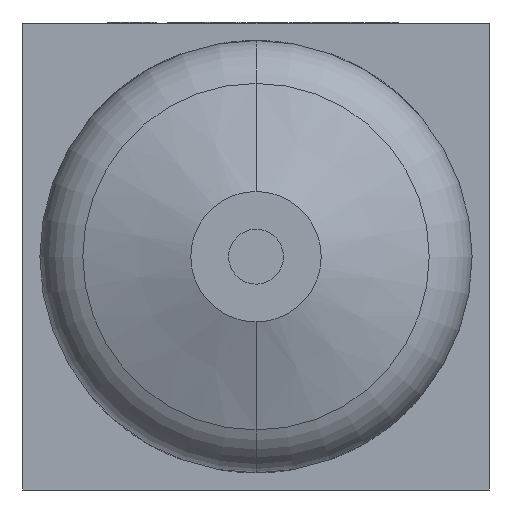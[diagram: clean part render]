
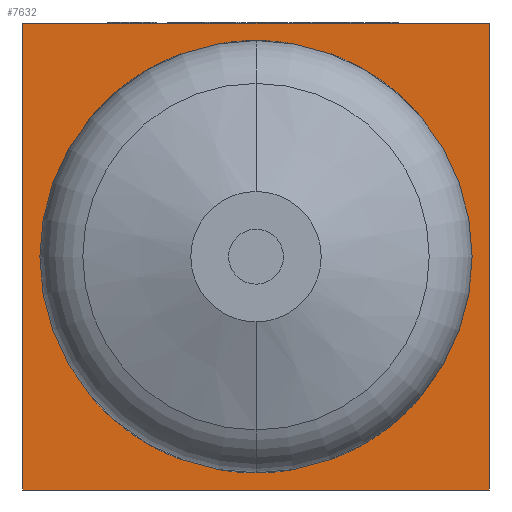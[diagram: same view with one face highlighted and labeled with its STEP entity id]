
A CAD part, front view. The second image highlights one B-rep face of the part: STEP entity #7632.
In plain terms, the highlighted planar face has unit normal (0, -1, 0).
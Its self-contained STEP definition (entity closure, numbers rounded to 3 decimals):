
#6 = LINE ( 'NONE', #10682, #6046 ) ;
#76 = ORIENTED_EDGE ( 'NONE', *, *, #7770, .F. ) ;
#249 = DIRECTION ( 'NONE',  ( 0., 0., -1. ) ) ;
#1073 = VERTEX_POINT ( 'NONE', #14282 ) ;
#2428 = LINE ( 'NONE', #5205, #11645 ) ;
#3053 = DIRECTION ( 'NONE',  ( 1., 0., 0. ) ) ;
#3181 = CARTESIAN_POINT ( 'NONE',  ( 34., -34., 34. ) ) ;
#3580 = PLANE ( 'NONE',  #8080 ) ;
#4218 = VERTEX_POINT ( 'NONE', #9853 ) ;
#4268 = DIRECTION ( 'NONE',  ( 0., 0., -1. ) ) ;
#4646 = EDGE_CURVE ( 'NONE', #13565, #1073, #6, .T. ) ;
#5205 = CARTESIAN_POINT ( 'NONE',  ( -34., -34., 34. ) ) ;
#5474 = ORIENTED_EDGE ( 'NONE', *, *, #4646, .T. ) ;
#6046 = VECTOR ( 'NONE', #13050, 1000. ) ;
#6464 = CARTESIAN_POINT ( 'NONE',  ( -34., -34., 34. ) ) ;
#7611 = EDGE_CURVE ( 'NONE', #4218, #13565, #2428, .T. ) ;
#7617 = DIRECTION ( 'NONE',  ( 0., 1., 0. ) ) ;
#7632 = ADVANCED_FACE ( 'NONE', ( #9186 ), #3580, .F. ) ;
#7640 = ORIENTED_EDGE ( 'NONE', *, *, #7611, .T. ) ;
#7770 = EDGE_CURVE ( 'NONE', #4218, #13891, #14067, .T. ) ;
#8022 = CARTESIAN_POINT ( 'NONE',  ( 34., -34., 34. ) ) ;
#8080 = AXIS2_PLACEMENT_3D ( 'NONE', #11200, #7617, #12422 ) ;
#9186 = FACE_OUTER_BOUND ( 'NONE', #15194, .T. ) ;
#9853 = CARTESIAN_POINT ( 'NONE',  ( -34., -34., 34. ) ) ;
#10682 = CARTESIAN_POINT ( 'NONE',  ( -34., -34., -34. ) ) ;
#10866 = VECTOR ( 'NONE', #3053, 1000. ) ;
#11200 = CARTESIAN_POINT ( 'NONE',  ( -34., -34., 34. ) ) ;
#11385 = VECTOR ( 'NONE', #4268, 1000. ) ;
#11645 = VECTOR ( 'NONE', #249, 1000. ) ;
#12422 = DIRECTION ( 'NONE',  ( 0., 0., 1. ) ) ;
#12585 = ORIENTED_EDGE ( 'NONE', *, *, #13979, .F. ) ;
#13050 = DIRECTION ( 'NONE',  ( 1., 0., 0. ) ) ;
#13565 = VERTEX_POINT ( 'NONE', #14121 ) ;
#13891 = VERTEX_POINT ( 'NONE', #3181 ) ;
#13979 = EDGE_CURVE ( 'NONE', #13891, #1073, #14573, .T. ) ;
#14067 = LINE ( 'NONE', #6464, #10866 ) ;
#14121 = CARTESIAN_POINT ( 'NONE',  ( -34., -34., -34. ) ) ;
#14282 = CARTESIAN_POINT ( 'NONE',  ( 34., -34., -34. ) ) ;
#14573 = LINE ( 'NONE', #8022, #11385 ) ;
#15194 = EDGE_LOOP ( 'NONE', ( #5474, #12585, #76, #7640 ) ) ;
